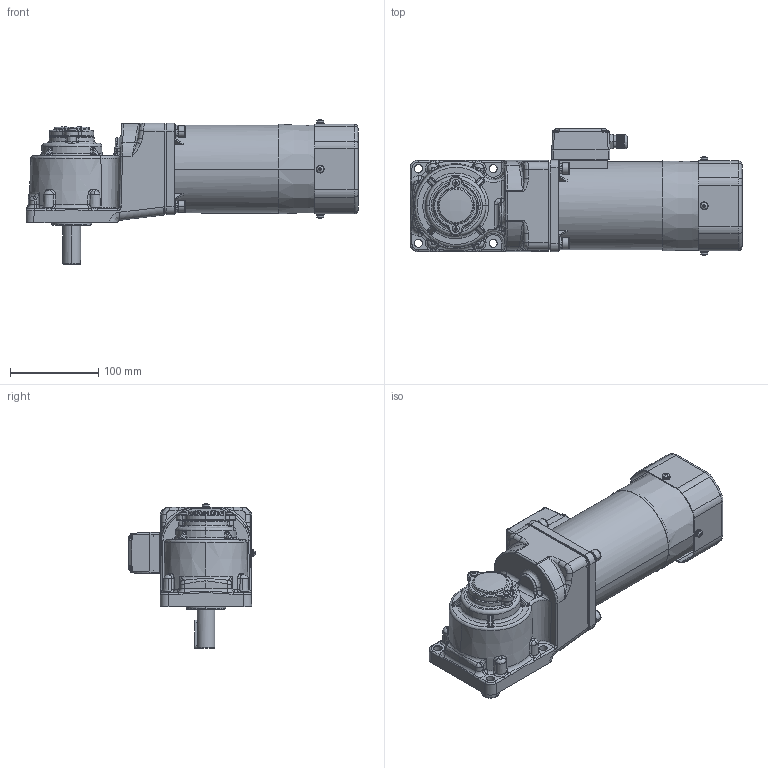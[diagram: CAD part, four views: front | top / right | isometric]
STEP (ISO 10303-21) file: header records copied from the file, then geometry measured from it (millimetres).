
FILE_DESCRIPTION (( 'STEP AP203' ), '1' );
FILE_NAME ('6RK120GU-CMFT(6GU3RT-180RT)ÐÂ.STEP', '2023-07-07T03:12:33', ( 'Windows User' ), ( 'P R C' ), 'SwSTEP 2.0', 'SolidWorks 2019', '' );
FILE_SCHEMA (( 'CONFIG_CONTROL_DESIGN' ));
Length unit declared in the file: millimetre
Products named in the file (5): ^_6RK120GU-CMFT(6GU3RT-180RT)陔(2)_6RK120GU-CMFT(6GU3RT-180RT)陔; 6RK120GU-CMFT(6GU3RT-180RT)陔(2)^6RK120GU-CMFT(6GU3RT-180RT)陔; 100RT____________________^6RK120GU-CMFT(6GU3RT-180RT)ÐÂ(2)_6RK120GU-CMFT(6GU3RT-180RT)ÐÂ; ^6RK120GU-CMFT(6GU3RT-180RT)陔(2)_6RK120GU-CMFT(6GU3RT-180RT)陔; 6RK120GU-CMFT(6GU3RT-180RT)陔
Assembly tree (4 placements, depth 4):
  6RK120GU-CMFT(6GU3RT-180RT)陔
    6RK120GU-CMFT(6GU3RT-180RT)陔(2)^6RK120GU-CMFT(6GU3RT-180RT)陔
      ^6RK120GU-CMFT(6GU3RT-180RT)陔(2)_6RK120GU-CMFT(6GU3RT-180RT)陔
        ^_6RK120GU-CMFT(6GU3RT-180RT)陔(2)_6RK120GU-CMFT(6GU3RT-180RT)陔
      100RT____________________^6RK120GU-CMFT(6GU3RT-180RT)ÐÂ(2)_6RK120GU-CMFT(6GU3RT-180RT)ÐÂ
Bounding box: 376.98 x 143.46 x 163.96 mm (x, y, z)
Volume: 2921793.9 mm3; surface area: 327380.1 mm2
Topology: 39 solids, 51 shells, 2755 faces, 6620 edges, 3989 vertices
Faces by surface type: cylinder 837, plane 794, cone 565, bspline 385, torus 118, sphere 56
Entity records: 105095 total; most frequent: CARTESIAN_POINT 44446, ORIENTED_EDGE 13106, DIRECTION 11946, EDGE_CURVE 6553, AXIS2_PLACEMENT_3D 4718, VERTEX_POINT 3985, EDGE_LOOP 2914, ADVANCED_FACE 2755
